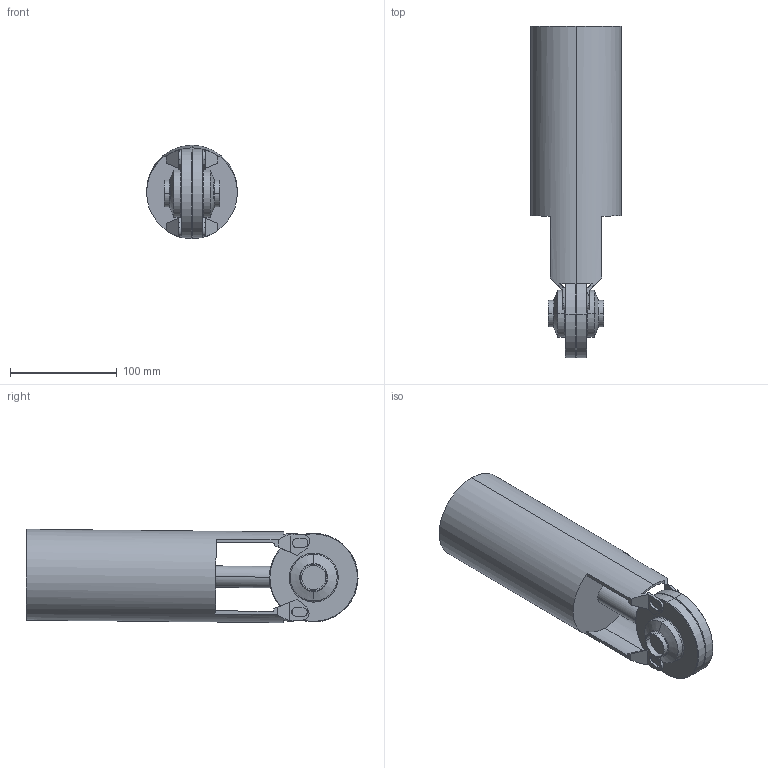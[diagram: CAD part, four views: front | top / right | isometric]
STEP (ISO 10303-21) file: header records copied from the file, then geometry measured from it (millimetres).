
FILE_DESCRIPTION(('OneSpaceDesigner STEP Export'),'2;1');
FILE_NAME('25-80-001-..vereint.stp','2007-04-20T 9:47:52',(''),(''),'OneSpace Designer STEP processor for AP214 (Solid Model)','OneSpace Modeling 15.00 06-Feb-2007 (C) CoCreate Software GmbH','');
FILE_SCHEMA(('AUTOMOTIVE_DESIGN { 1 0 10303 214 1 1 1 1 }'));
Length unit declared in the file: millimetre
Products named in the file (2): SV1-1zoll-FZ-12S; SV1-1zoll-FZ-12S-vereint
Assembly tree (1 placements, depth 2):
  SV1-1zoll-FZ-12S-vereint
    SV1-1zoll-FZ-12S
Bounding box: 85 x 310.91 x 87.39 mm (x, y, z)
Volume: 1179921.7 mm3; surface area: 97152.8 mm2
Topology: 1 solids, 1 shells, 138 faces, 365 edges, 230 vertices
Faces by surface type: plane 72, cylinder 42, cone 16, torus 8
Entity records: 4316 total; most frequent: CARTESIAN_POINT 1154, ORIENTED_EDGE 730, DIRECTION 570, EDGE_CURVE 365, VERTEX_POINT 230, VECTOR 198, LINE 198, AXIS2_PLACEMENT_3D 186
